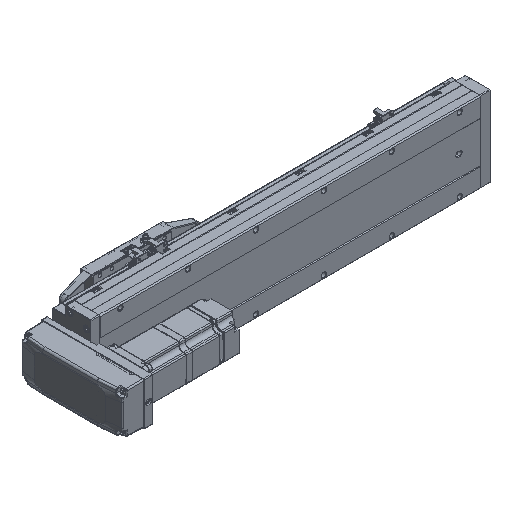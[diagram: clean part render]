
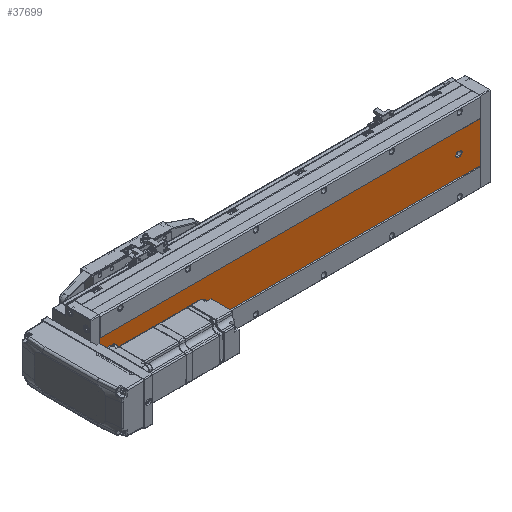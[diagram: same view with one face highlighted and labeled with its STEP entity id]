
A CAD part, isometric view. The second image highlights one B-rep face of the part: STEP entity #37699.
In plain terms, the highlighted planar face has unit normal (0, -1, 0).
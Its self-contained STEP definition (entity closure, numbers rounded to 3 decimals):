
#314 = VERTEX_POINT ( 'NONE', #36710 ) ;
#1169 = EDGE_CURVE ( 'NONE', #4033, #49452, #15197, .T. ) ;
#1975 = CARTESIAN_POINT ( 'NONE',  ( -69.892, -52.848, 0. ) ) ;
#2656 = ORIENTED_EDGE ( 'NONE', *, *, #18330, .T. ) ;
#2832 = ORIENTED_EDGE ( 'NONE', *, *, #11937, .T. ) ;
#4033 = VERTEX_POINT ( 'NONE', #68679 ) ;
#4935 = DIRECTION ( 'NONE',  ( 1., 0., 0. ) ) ;
#5144 = DIRECTION ( 'NONE',  ( 0., 0., 1. ) ) ;
#5220 = EDGE_LOOP ( 'NONE', ( #2832, #38313, #12502, #38207 ) ) ;
#5421 = CARTESIAN_POINT ( 'NONE',  ( -39.892, -52.848, 30. ) ) ;
#6324 = EDGE_CURVE ( 'NONE', #43055, #64400, #15914, .T. ) ;
#7706 = ORIENTED_EDGE ( 'NONE', *, *, #6324, .T. ) ;
#7744 = VERTEX_POINT ( 'NONE', #50222 ) ;
#8824 = DIRECTION ( 'NONE',  ( 0., 1., 0. ) ) ;
#10349 = EDGE_LOOP ( 'NONE', ( #43241, #42728 ) ) ;
#10433 = ORIENTED_EDGE ( 'NONE', *, *, #46469, .T. ) ;
#11125 = CARTESIAN_POINT ( 'NONE',  ( -43.392, -52.848, 561. ) ) ;
#11811 = ORIENTED_EDGE ( 'NONE', *, *, #36525, .T. ) ;
#11937 = EDGE_CURVE ( 'NONE', #30906, #26996, #21870, .T. ) ;
#12035 = DIRECTION ( 'NONE',  ( 0., 0., 1. ) ) ;
#12502 = ORIENTED_EDGE ( 'NONE', *, *, #44783, .F. ) ;
#13883 = DIRECTION ( 'NONE',  ( 0., 0., 1. ) ) ;
#14066 = DIRECTION ( 'NONE',  ( 0., 0., -1. ) ) ;
#14498 = CARTESIAN_POINT ( 'NONE',  ( -39.892, -52.848, 434.5 ) ) ;
#14828 = AXIS2_PLACEMENT_3D ( 'NONE', #5421, #56740, #33885 ) ;
#15197 = CIRCLE ( 'NONE', #28699, 3.5 ) ;
#15654 = VECTOR ( 'NONE', #4935, 1000. ) ;
#15914 = LINE ( 'NONE', #47866, #74244 ) ;
#16898 = DIRECTION ( 'NONE',  ( 0., 0., 1. ) ) ;
#17469 = EDGE_LOOP ( 'NONE', ( #2656, #57981 ) ) ;
#18207 = VECTOR ( 'NONE', #30603, 1000. ) ;
#18330 = EDGE_CURVE ( 'NONE', #7744, #60129, #52760, .T. ) ;
#20124 = CARTESIAN_POINT ( 'NONE',  ( -69.892, -52.848, 561. ) ) ;
#20577 = DIRECTION ( 'NONE',  ( 0., 1., 0. ) ) ;
#20986 = LINE ( 'NONE', #11125, #59504 ) ;
#21520 = CARTESIAN_POINT ( 'NONE',  ( -39.892, -52.848, 531. ) ) ;
#21870 = LINE ( 'NONE', #56511, #15654 ) ;
#22997 = CARTESIAN_POINT ( 'NONE',  ( -69.892, -52.848, 561. ) ) ;
#23498 = DIRECTION ( 'NONE',  ( 0., 1., 0. ) ) ;
#24326 = CIRCLE ( 'NONE', #49688, 3.5 ) ;
#26253 = FACE_BOUND ( 'NONE', #17469, .T. ) ;
#26766 = CARTESIAN_POINT ( 'NONE',  ( -39.892, -52.848, 30. ) ) ;
#26996 = VERTEX_POINT ( 'NONE', #43208 ) ;
#27114 = LINE ( 'NONE', #49310, #64840 ) ;
#27267 = CARTESIAN_POINT ( 'NONE',  ( -43.392, -52.848, 30. ) ) ;
#27920 = CARTESIAN_POINT ( 'NONE',  ( -69.892, -52.848, 561. ) ) ;
#28258 = CARTESIAN_POINT ( 'NONE',  ( -39.892, -52.848, 527.5 ) ) ;
#28409 = DIRECTION ( 'NONE',  ( 1., 0., 0. ) ) ;
#28699 = AXIS2_PLACEMENT_3D ( 'NONE', #58013, #29427, #40216 ) ;
#29427 = DIRECTION ( 'NONE',  ( 0., 1., 0. ) ) ;
#30603 = DIRECTION ( 'NONE',  ( 0., 0., -1. ) ) ;
#30735 = EDGE_CURVE ( 'NONE', #47436, #43055, #35804, .T. ) ;
#30906 = VERTEX_POINT ( 'NONE', #1975 ) ;
#33885 = DIRECTION ( 'NONE',  ( 0., 0., 1. ) ) ;
#34711 = DIRECTION ( 'NONE',  ( 0., 0., 1. ) ) ;
#35222 = CARTESIAN_POINT ( 'NONE',  ( -39.892, -52.848, 32. ) ) ;
#35804 = CIRCLE ( 'NONE', #40764, 3.5 ) ;
#35860 = CARTESIAN_POINT ( 'NONE',  ( -9.892, -52.848, 561. ) ) ;
#36525 = EDGE_CURVE ( 'NONE', #64400, #54449, #49300, .T. ) ;
#36710 = CARTESIAN_POINT ( 'NONE',  ( -9.892, -52.848, 561. ) ) ;
#37035 = EDGE_CURVE ( 'NONE', #54440, #47436, #20986, .T. ) ;
#37699 = ADVANCED_FACE ( 'NONE', ( #41534, #26253, #70306, #43335 ), #74185, .F. ) ;
#38207 = ORIENTED_EDGE ( 'NONE', *, *, #53303, .T. ) ;
#38313 = ORIENTED_EDGE ( 'NONE', *, *, #64251, .F. ) ;
#38315 = CARTESIAN_POINT ( 'NONE',  ( -36.392, -52.848, 30. ) ) ;
#40122 = VECTOR ( 'NONE', #28409, 1000. ) ;
#40216 = DIRECTION ( 'NONE',  ( 0., 0., 1. ) ) ;
#40764 = AXIS2_PLACEMENT_3D ( 'NONE', #35222, #23498, #12035 ) ;
#41534 = FACE_BOUND ( 'NONE', #44626, .T. ) ;
#42055 = AXIS2_PLACEMENT_3D ( 'NONE', #26766, #20577, #55121 ) ;
#42728 = ORIENTED_EDGE ( 'NONE', *, *, #1169, .T. ) ;
#43055 = VERTEX_POINT ( 'NONE', #43946 ) ;
#43208 = CARTESIAN_POINT ( 'NONE',  ( -9.892, -52.848, 0. ) ) ;
#43241 = ORIENTED_EDGE ( 'NONE', *, *, #59851, .T. ) ;
#43335 = FACE_OUTER_BOUND ( 'NONE', #5220, .T. ) ;
#43375 = VERTEX_POINT ( 'NONE', #20124 ) ;
#43639 = AXIS2_PLACEMENT_3D ( 'NONE', #22997, #69425, #34711 ) ;
#43946 = CARTESIAN_POINT ( 'NONE',  ( -36.392, -52.848, 32. ) ) ;
#44626 = EDGE_LOOP ( 'NONE', ( #65458, #7706, #11811, #10433, #54154 ) ) ;
#44679 = DIRECTION ( 'NONE',  ( 0., 1., 0. ) ) ;
#44783 = EDGE_CURVE ( 'NONE', #43375, #314, #74277, .T. ) ;
#44929 = CARTESIAN_POINT ( 'NONE',  ( -39.892, -52.848, 431. ) ) ;
#46469 = EDGE_CURVE ( 'NONE', #54449, #54440, #65103, .T. ) ;
#47436 = VERTEX_POINT ( 'NONE', #51975 ) ;
#47866 = CARTESIAN_POINT ( 'NONE',  ( -36.392, -52.848, 561. ) ) ;
#48674 = CARTESIAN_POINT ( 'NONE',  ( -39.892, -52.848, 431. ) ) ;
#49300 = CIRCLE ( 'NONE', #14828, 3.5 ) ;
#49310 = CARTESIAN_POINT ( 'NONE',  ( -69.892, -52.848, 561. ) ) ;
#49452 = VERTEX_POINT ( 'NONE', #28258 ) ;
#49688 = AXIS2_PLACEMENT_3D ( 'NONE', #21520, #52053, #62115 ) ;
#50222 = CARTESIAN_POINT ( 'NONE',  ( -39.892, -52.848, 427.5 ) ) ;
#50518 = CIRCLE ( 'NONE', #65918, 3.5 ) ;
#51975 = CARTESIAN_POINT ( 'NONE',  ( -43.392, -52.848, 32. ) ) ;
#52053 = DIRECTION ( 'NONE',  ( 0., 1., 0. ) ) ;
#52760 = CIRCLE ( 'NONE', #72232, 3.5 ) ;
#53303 = EDGE_CURVE ( 'NONE', #43375, #30906, #27114, .T. ) ;
#54154 = ORIENTED_EDGE ( 'NONE', *, *, #37035, .T. ) ;
#54440 = VERTEX_POINT ( 'NONE', #27267 ) ;
#54449 = VERTEX_POINT ( 'NONE', #72241 ) ;
#55045 = DIRECTION ( 'NONE',  ( 0., 0., -1. ) ) ;
#55121 = DIRECTION ( 'NONE',  ( 0., 0., 1. ) ) ;
#56511 = CARTESIAN_POINT ( 'NONE',  ( -69.892, -52.848, 0. ) ) ;
#56740 = DIRECTION ( 'NONE',  ( 0., 1., 0. ) ) ;
#57981 = ORIENTED_EDGE ( 'NONE', *, *, #72501, .T. ) ;
#58013 = CARTESIAN_POINT ( 'NONE',  ( -39.892, -52.848, 531. ) ) ;
#59504 = VECTOR ( 'NONE', #16898, 1000. ) ;
#59851 = EDGE_CURVE ( 'NONE', #49452, #4033, #24326, .T. ) ;
#60129 = VERTEX_POINT ( 'NONE', #14498 ) ;
#62115 = DIRECTION ( 'NONE',  ( 0., 0., 1. ) ) ;
#64251 = EDGE_CURVE ( 'NONE', #314, #26996, #73801, .T. ) ;
#64400 = VERTEX_POINT ( 'NONE', #38315 ) ;
#64840 = VECTOR ( 'NONE', #55045, 1000. ) ;
#65103 = CIRCLE ( 'NONE', #42055, 3.5 ) ;
#65458 = ORIENTED_EDGE ( 'NONE', *, *, #30735, .T. ) ;
#65918 = AXIS2_PLACEMENT_3D ( 'NONE', #48674, #8824, #13883 ) ;
#68679 = CARTESIAN_POINT ( 'NONE',  ( -39.892, -52.848, 534.5 ) ) ;
#69425 = DIRECTION ( 'NONE',  ( 0., 1., 0. ) ) ;
#70306 = FACE_BOUND ( 'NONE', #10349, .T. ) ;
#72232 = AXIS2_PLACEMENT_3D ( 'NONE', #44929, #44679, #5144 ) ;
#72241 = CARTESIAN_POINT ( 'NONE',  ( -39.892, -52.848, 26.5 ) ) ;
#72501 = EDGE_CURVE ( 'NONE', #60129, #7744, #50518, .T. ) ;
#73801 = LINE ( 'NONE', #35860, #18207 ) ;
#74185 = PLANE ( 'NONE',  #43639 ) ;
#74244 = VECTOR ( 'NONE', #14066, 1000. ) ;
#74277 = LINE ( 'NONE', #27920, #40122 ) ;
